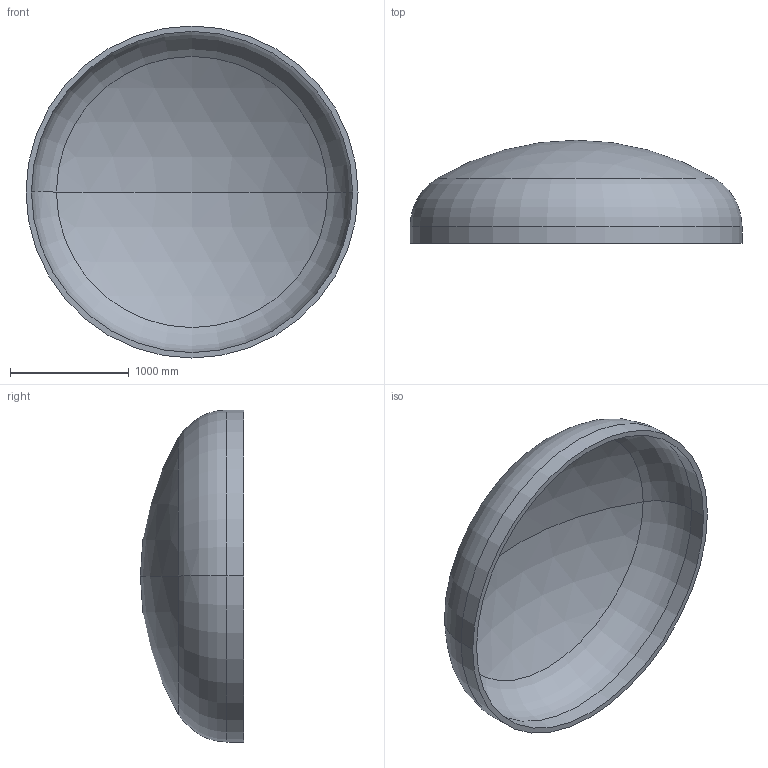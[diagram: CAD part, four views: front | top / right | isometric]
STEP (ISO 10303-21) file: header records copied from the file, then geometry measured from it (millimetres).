
FILE_DESCRIPTION (( 'STEP AP203' ), '1' );
FILE_NAME ('DIN 28013 Korbbogenform_-_Boden DIN 28013 - 2800 x 140 - I - s=46.step', '2016-07-01T17:01:24', ( '' ), ( '' ), 'SwSTEP 2.0', 'SolidWorks 2013', '' );
FILE_SCHEMA (( 'CONFIG_CONTROL_DESIGN' ));
Length unit declared in the file: millimetre
Products named in the file (1): DIN 28013 Korbbogenform_-_Boden DIN 28013 - 2800 x 140 - I - s=46
Bounding box: 2800 x 869.62 x 2800 mm (x, y, z)
Volume: 439386201.8 mm3; surface area: 19506162.7 mm2
Topology: 1 solids, 1 shells, 13 faces, 24 edges, 14 vertices
Faces by surface type: torus 4, cylinder 4, sphere 4, plane 1
Entity records: 407 total; most frequent: DIRECTION 72, CARTESIAN_POINT 52, ORIENTED_EDGE 48, AXIS2_PLACEMENT_3D 34, EDGE_CURVE 24, CIRCLE 20, EDGE_LOOP 14, VERTEX_POINT 14
